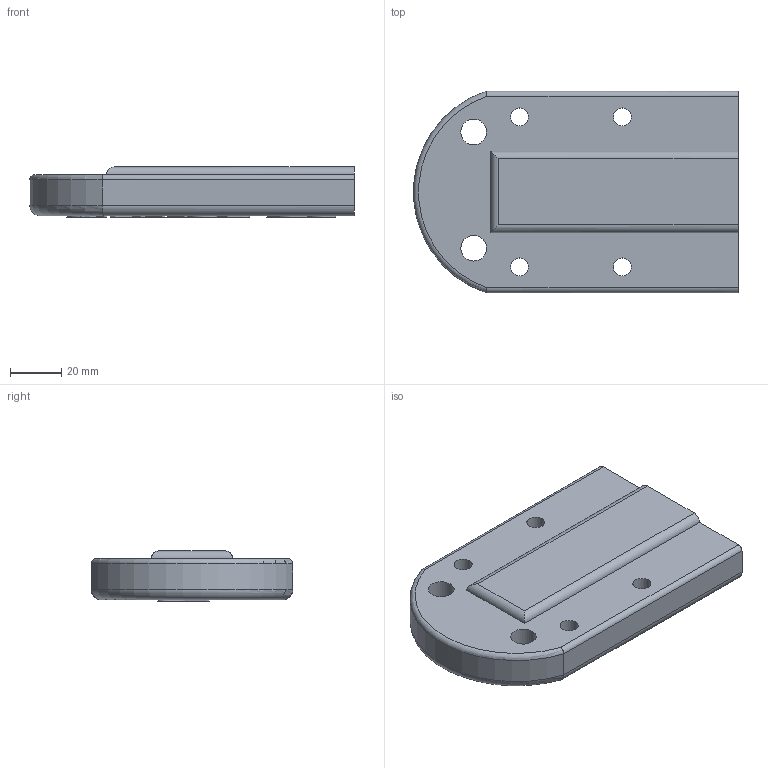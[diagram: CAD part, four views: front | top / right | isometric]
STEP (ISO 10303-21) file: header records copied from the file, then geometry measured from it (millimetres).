
FILE_DESCRIPTION(('STEP AP203'), '1');
FILE_NAME('ãîëîâêà ãðèôà íèç', '', ('UNSPECIFIED'), ('UNSPECIFIED'), 'ASCON STEP Converter 1.3', 'ASCON Math Kernel', '');
FILE_SCHEMA(('CONFIG_CONTROL_DESIGN'));
Length unit declared in the file: millimetre
Bounding box: 126.11 x 78.3 x 19.5 mm (x, y, z)
Volume: 115054.6 mm3; surface area: 35041.7 mm2
Topology: 1 solids, 1 shells, 416 faces, 1202 edges, 800 vertices
Faces by surface type: cylinder 310, plane 104, torus 2
Full cylindrical faces by diameter (mm): 7 x4, 10 x2
Entity records: 17416 total; most frequent: DIRECTION 2638, CARTESIAN_POINT 2489, ORIENTED_EDGE 2392, EDGE_CURVE 1196, AXIS2_PLACEMENT_3D 1031, VERTEX_POINT 800, CIRCLE 614, LINE 576
